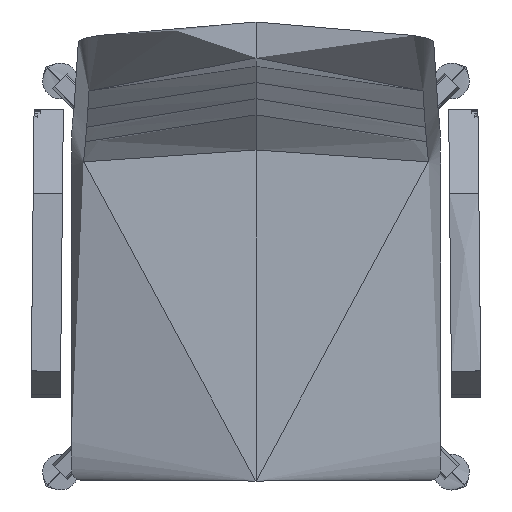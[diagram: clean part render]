
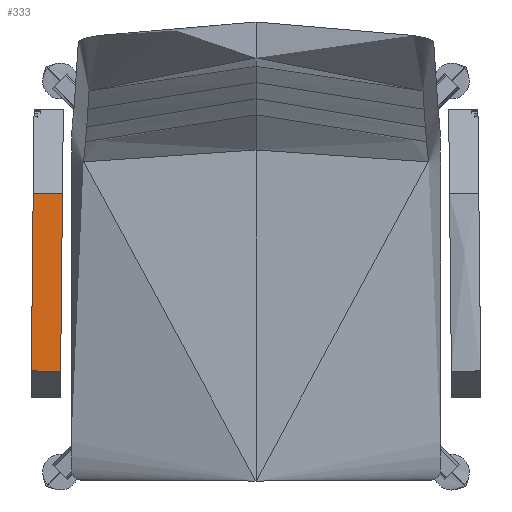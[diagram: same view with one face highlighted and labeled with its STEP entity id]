
A CAD part, top view. The second image highlights one B-rep face of the part: STEP entity #333.
In plain terms, the highlighted free-form (B-spline) face has degree [3, 3] with [5, 4] control points.
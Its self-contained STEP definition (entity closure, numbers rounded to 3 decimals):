
#333=ADVANCED_FACE('',(#602),#3922,.T.);
#602=FACE_OUTER_BOUND('',#875,.T.);
#875=EDGE_LOOP('',(#1595,#1596,#1597,#1598));
#1595=ORIENTED_EDGE('',*,*,#2503,.F.);
#1596=ORIENTED_EDGE('',*,*,#2502,.F.);
#1597=ORIENTED_EDGE('',*,*,#2501,.F.);
#1598=ORIENTED_EDGE('',*,*,#2500,.F.);
#2500=EDGE_CURVE('',#3638,#3639,#3275,.T.);
#2501=EDGE_CURVE('',#3639,#3640,#3276,.T.);
#2502=EDGE_CURVE('',#3640,#3641,#3277,.T.);
#2503=EDGE_CURVE('',#3641,#3638,#3278,.T.);
#3275=(
BOUNDED_CURVE()
B_SPLINE_CURVE(3,(#11883,#11884,#11885,#11886),.UNSPECIFIED.,.F.,.F.)
B_SPLINE_CURVE_WITH_KNOTS((4,4),(0.,217.847),.UNSPECIFIED.)
CURVE()
GEOMETRIC_REPRESENTATION_ITEM()
RATIONAL_B_SPLINE_CURVE((1.,1.,1.,1.))
REPRESENTATION_ITEM('')
);
#3276=(
BOUNDED_CURVE()
B_SPLINE_CURVE(3,(#11887,#11888,#11889,#11890,#11891),.UNSPECIFIED.,.F.,
 .F.)
B_SPLINE_CURVE_WITH_KNOTS((4,1,4),(-36.993,-18.496,
0.),.UNSPECIFIED.)
CURVE()
GEOMETRIC_REPRESENTATION_ITEM()
RATIONAL_B_SPLINE_CURVE((1.,1.,1.,1.,1.))
REPRESENTATION_ITEM('')
);
#3277=(
BOUNDED_CURVE()
B_SPLINE_CURVE(3,(#11892,#11893,#11894,#11895),.UNSPECIFIED.,.F.,.F.)
B_SPLINE_CURVE_WITH_KNOTS((4,4),(-217.847,0.),.UNSPECIFIED.)
CURVE()
GEOMETRIC_REPRESENTATION_ITEM()
RATIONAL_B_SPLINE_CURVE((1.,1.,1.,1.))
REPRESENTATION_ITEM('')
);
#3278=(
BOUNDED_CURVE()
B_SPLINE_CURVE(3,(#11896,#11897,#11898,#11899,#11900),.UNSPECIFIED.,.F.,
 .F.)
B_SPLINE_CURVE_WITH_KNOTS((4,1,4),(0.,18.496,36.993),
 .UNSPECIFIED.)
CURVE()
GEOMETRIC_REPRESENTATION_ITEM()
RATIONAL_B_SPLINE_CURVE((1.,1.,1.,1.,1.))
REPRESENTATION_ITEM('')
);
#3638=VERTEX_POINT('',#11742);
#3639=VERTEX_POINT('',#11743);
#3640=VERTEX_POINT('',#11744);
#3641=VERTEX_POINT('',#11745);
#3922=(
BOUNDED_SURFACE()
B_SPLINE_SURFACE(3,3,((#11368,#11369,#11370,#11371),(#11372,#11373,#11374,
#11375),(#11376,#11377,#11378,#11379),(#11380,#11381,#11382,#11383),(#11384,
#11385,#11386,#11387)),.UNSPECIFIED.,.F.,.F.,.F.)
B_SPLINE_SURFACE_WITH_KNOTS((4,1,4),(4,4),(-36.993,-18.496,
0.),(0.,217.847),.UNSPECIFIED.)
GEOMETRIC_REPRESENTATION_ITEM()
RATIONAL_B_SPLINE_SURFACE(((1.,1.,1.,1.),(1.,1.,1.,1.),(1.,1.,1.,1.),(1.,
1.,1.,1.),(1.,1.,1.,1.)))
REPRESENTATION_ITEM('')
SURFACE()
);
#11368=CARTESIAN_POINT('',(-237.986,100.487,641.621));
#11369=CARTESIAN_POINT('',(-238.746,27.912,643.941));
#11370=CARTESIAN_POINT('',(-239.509,-44.946,646.27));
#11371=CARTESIAN_POINT('',(-240.269,-117.521,648.591));
#11372=CARTESIAN_POINT('',(-244.421,100.551,644.077));
#11373=CARTESIAN_POINT('',(-245.181,27.977,646.397));
#11374=CARTESIAN_POINT('',(-246.042,-44.711,648.665));
#11375=CARTESIAN_POINT('',(-246.802,-117.286,650.986));
#11376=CARTESIAN_POINT('',(-255.46,100.663,646.937));
#11377=CARTESIAN_POINT('',(-256.22,28.089,649.257));
#11378=CARTESIAN_POINT('',(-256.817,-44.396,651.561));
#11379=CARTESIAN_POINT('',(-257.577,-116.97,653.881));
#11380=CARTESIAN_POINT('',(-268.599,100.804,644.54));
#11381=CARTESIAN_POINT('',(-269.359,28.229,646.861));
#11382=CARTESIAN_POINT('',(-270.346,-44.413,649.268));
#11383=CARTESIAN_POINT('',(-271.106,-116.988,651.588));
#11384=CARTESIAN_POINT('',(-273.984,100.864,641.621));
#11385=CARTESIAN_POINT('',(-274.744,28.289,643.941));
#11386=CARTESIAN_POINT('',(-275.507,-44.569,646.27));
#11387=CARTESIAN_POINT('',(-276.267,-117.144,648.591));
#11742=CARTESIAN_POINT('',(-237.986,100.487,641.621));
#11743=CARTESIAN_POINT('',(-240.269,-117.521,648.591));
#11744=CARTESIAN_POINT('',(-276.267,-117.144,648.591));
#11745=CARTESIAN_POINT('',(-273.984,100.864,641.621));
#11883=CARTESIAN_POINT('',(-237.986,100.487,641.621));
#11884=CARTESIAN_POINT('',(-238.746,27.912,643.941));
#11885=CARTESIAN_POINT('',(-239.509,-44.946,646.27));
#11886=CARTESIAN_POINT('',(-240.269,-117.521,648.591));
#11887=CARTESIAN_POINT('',(-240.269,-117.521,648.591));
#11888=CARTESIAN_POINT('',(-246.802,-117.286,650.986));
#11889=CARTESIAN_POINT('',(-257.577,-116.97,653.881));
#11890=CARTESIAN_POINT('',(-271.106,-116.988,651.588));
#11891=CARTESIAN_POINT('',(-276.267,-117.144,648.591));
#11892=CARTESIAN_POINT('',(-276.267,-117.144,648.591));
#11893=CARTESIAN_POINT('',(-275.507,-44.569,646.27));
#11894=CARTESIAN_POINT('',(-274.744,28.289,643.941));
#11895=CARTESIAN_POINT('',(-273.984,100.864,641.621));
#11896=CARTESIAN_POINT('',(-273.984,100.864,641.621));
#11897=CARTESIAN_POINT('',(-268.599,100.804,644.54));
#11898=CARTESIAN_POINT('',(-255.46,100.663,646.937));
#11899=CARTESIAN_POINT('',(-244.421,100.551,644.077));
#11900=CARTESIAN_POINT('',(-237.986,100.487,641.621));
